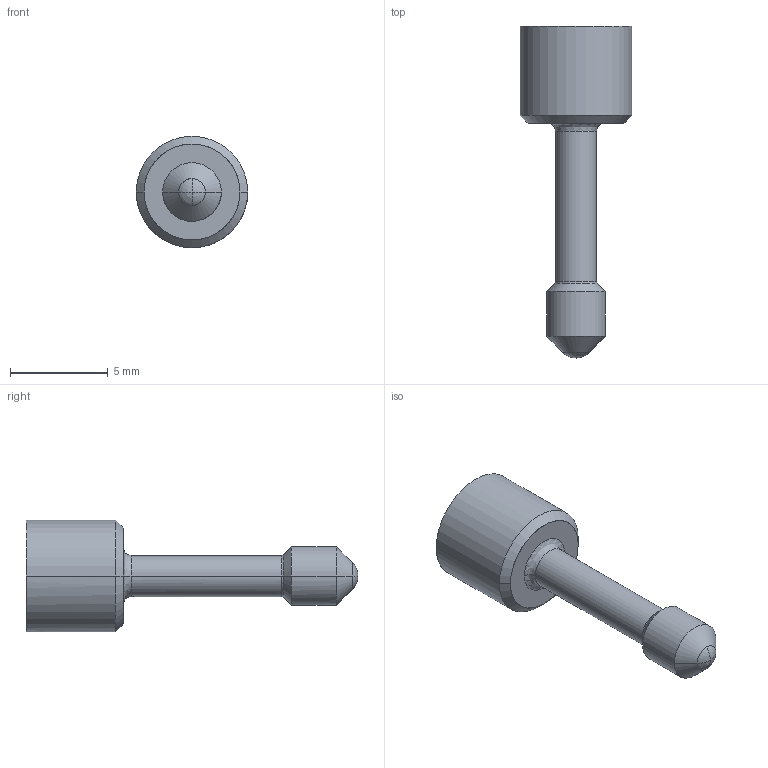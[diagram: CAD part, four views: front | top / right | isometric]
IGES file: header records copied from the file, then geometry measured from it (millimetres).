
Start section: START RECORD GO HERE.
Global section: file name: ia571720.igs; native system: DASSAULT SYSTEMES CATIA V5 R20 - www.3ds.com; preprocessor: CATIA Version 5 Release 20 ; author: Utente; organization: NB04-ASUS; date: 20201108.074320; units: millimetre
Bounding box: 5.7 x 16.97 x 5.7 mm (x, y, z)
Surface area: 229.1 mm2 (no closed solid volume)
Topology: 0 solids, 0 shells, 59 faces, 283 edges, 282 vertices
Faces by surface type: revolution 38, plane 21
